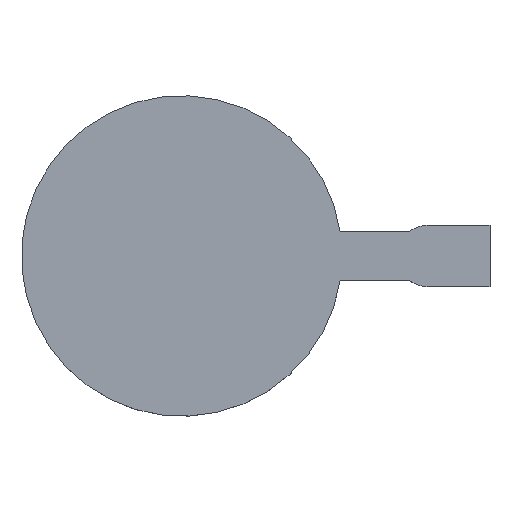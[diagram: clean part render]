
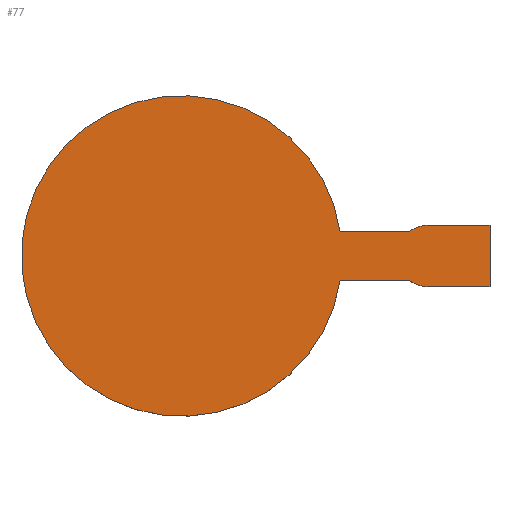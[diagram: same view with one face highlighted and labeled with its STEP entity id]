
A CAD part, top view. The second image highlights one B-rep face of the part: STEP entity #77.
In plain terms, the highlighted planar face has unit normal (0, 0, 1).
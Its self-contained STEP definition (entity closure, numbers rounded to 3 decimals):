
#77 = ADVANCED_FACE( '', ( #156 ), #157, .F. );
#156 = FACE_OUTER_BOUND( '', #230, .T. );
#157 = PLANE( '', #231 );
#230 = EDGE_LOOP( '', ( #380, #381, #382, #383, #384, #385, #386, #387 ) );
#231 = AXIS2_PLACEMENT_3D( '', #388, #389, #390 );
#380 = ORIENTED_EDGE( '', *, *, #435, .F. );
#381 = ORIENTED_EDGE( '', *, *, #489, .T. );
#382 = ORIENTED_EDGE( '', *, *, #473, .T. );
#383 = ORIENTED_EDGE( '', *, *, #486, .T. );
#384 = ORIENTED_EDGE( '', *, *, #479, .T. );
#385 = ORIENTED_EDGE( '', *, *, #455, .T. );
#386 = ORIENTED_EDGE( '', *, *, #464, .T. );
#387 = ORIENTED_EDGE( '', *, *, #490, .T. );
#388 = CARTESIAN_POINT( '', ( -125., 125., 0. ) );
#389 = DIRECTION( '', ( 0., 0., -1. ) );
#390 = DIRECTION( '', ( 0., 1., 0. ) );
#435 = EDGE_CURVE( '', #509, #511, #512, .T. );
#455 = EDGE_CURVE( '', #546, #544, #547, .T. );
#464 = EDGE_CURVE( '', #544, #559, #560, .T. );
#473 = EDGE_CURVE( '', #574, #572, #575, .T. );
#479 = EDGE_CURVE( '', #582, #546, #583, .T. );
#486 = EDGE_CURVE( '', #572, #582, #590, .T. );
#489 = EDGE_CURVE( '', #509, #574, #593, .T. );
#490 = EDGE_CURVE( '', #559, #511, #594, .T. );
#509 = VERTEX_POINT( '', #614 );
#511 = VERTEX_POINT( '', #617 );
#512 = LINE( '', #618, #619 );
#544 = VERTEX_POINT( '', #664 );
#546 = VERTEX_POINT( '', #667 );
#547 = LINE( '', #668, #669 );
#559 = VERTEX_POINT( '', #685 );
#560 = CIRCLE( '', #686, 12.5 );
#572 = VERTEX_POINT( '', #700 );
#574 = VERTEX_POINT( '', #703 );
#575 = CIRCLE( '', #704, 12.5 );
#582 = VERTEX_POINT( '', #713 );
#583 = CIRCLE( '', #714, 65. );
#590 = LINE( '', #724, #725 );
#593 = LINE( '', #729, #730 );
#594 = LINE( '', #731, #732 );
#614 = CARTESIAN_POINT( '', ( 125., 12.5, 0. ) );
#617 = CARTESIAN_POINT( '', ( 125., -12.5, 0. ) );
#618 = CARTESIAN_POINT( '', ( 125., 125., 0. ) );
#619 = VECTOR( '', #752, 1000. );
#664 = CARTESIAN_POINT( '', ( 92.5, -10., 0. ) );
#667 = CARTESIAN_POINT( '', ( 64.226, -10., 0. ) );
#668 = CARTESIAN_POINT( '', ( 0., -10., 0. ) );
#669 = VECTOR( '', #776, 1000. );
#685 = CARTESIAN_POINT( '', ( 100., -12.5, 0. ) );
#686 = AXIS2_PLACEMENT_3D( '', #787, #788, #789 );
#700 = CARTESIAN_POINT( '', ( 92.5, 10., 0. ) );
#703 = CARTESIAN_POINT( '', ( 100., 12.5, 0. ) );
#704 = AXIS2_PLACEMENT_3D( '', #802, #803, #804 );
#713 = CARTESIAN_POINT( '', ( 64.226, 10., 0. ) );
#714 = AXIS2_PLACEMENT_3D( '', #810, #811, #812 );
#724 = CARTESIAN_POINT( '', ( 100., 10., 0. ) );
#725 = VECTOR( '', #816, 1000. );
#729 = CARTESIAN_POINT( '', ( 148.185, 12.5, 0. ) );
#730 = VECTOR( '', #818, 1000. );
#731 = CARTESIAN_POINT( '', ( 100., -12.5, 0. ) );
#732 = VECTOR( '', #819, 1000. );
#752 = DIRECTION( '', ( 0., -1., 0. ) );
#776 = DIRECTION( '', ( 1., 0., 0. ) );
#787 = CARTESIAN_POINT( '', ( 100., 0., 0. ) );
#788 = DIRECTION( '', ( 0., 0., 1. ) );
#789 = DIRECTION( '', ( 0., 1., 0. ) );
#802 = CARTESIAN_POINT( '', ( 100., 0., 0. ) );
#803 = DIRECTION( '', ( 0., 0., 1. ) );
#804 = DIRECTION( '', ( 0., 1., 0. ) );
#810 = CARTESIAN_POINT( '', ( 0., 0., 0. ) );
#811 = DIRECTION( '', ( 0., 0., 1. ) );
#812 = DIRECTION( '', ( 1., 0., 0. ) );
#816 = DIRECTION( '', ( -1., 0., 0. ) );
#818 = DIRECTION( '', ( -1., 0., 0. ) );
#819 = DIRECTION( '', ( 1., 0., 0. ) );
